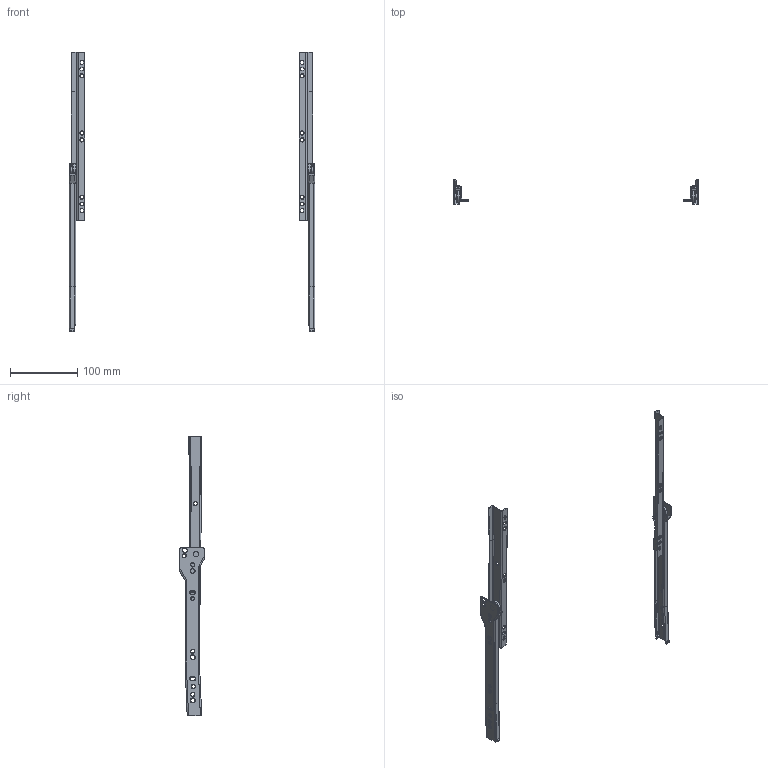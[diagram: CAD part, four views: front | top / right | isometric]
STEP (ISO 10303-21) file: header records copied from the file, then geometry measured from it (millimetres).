
FILE_DESCRIPTION(/* description */ (''),/* implementation_level */ '2;1');
FILE_NAME(/* name */ 'D:\$Workingspace\Designs\Katalog\Cadsoft\GTV Prowadnice\Prowadnice GTV_bryły 3D\PR-SP-250-10_wysunieta.stp',/* time_stamp */ '2016-11-22T15:22:22+01:00',/* author */ ('tomaszw'),/* organization */ (''),/* preprocessor_version */ 'ST-DEVELOPER v16.1',/* originating_system */ 'Autodesk Inventor 2016',/* authorisation */ '');
FILE_SCHEMA (('AUTOMOTIVE_DESIGN { 1 0 10303 214 3 1 1 }'));
Length unit declared in the file: millimetre
Products named in the file (5): PR-SP-250-10_CL; PR-SP-250-10_CR; PR-SP-250-10_DL; PR-SP-250-10_DR; PR-SP
Assembly tree (4 placements, depth 2):
  PR-SP
    PR-SP-250-10_CL
    PR-SP-250-10_CR
    PR-SP-250-10_DL
    PR-SP-250-10_DR
Bounding box: 364 x 36 x 415 mm (x, y, z)
Volume: 48760.8 mm3; surface area: 77653.6 mm2
Topology: 4 solids, 4 shells, 412 faces, 1030 edges, 638 vertices
Faces by surface type: cylinder 180, plane 158, cone 38, torus 28, sphere 8
Full cylindrical faces by diameter (mm): 5 x2, 5.4 x20, 5.5 x2, 6.4 x6, 7 x4, 8 x4, 18.5 x4
Entity records: 12617 total; most frequent: CARTESIAN_POINT 2191, DIRECTION 2168, ORIENTED_EDGE 1884, EDGE_CURVE 942, AXIS2_PLACEMENT_3D 819, VERTEX_POINT 630, EDGE_LOOP 592, LINE 530
